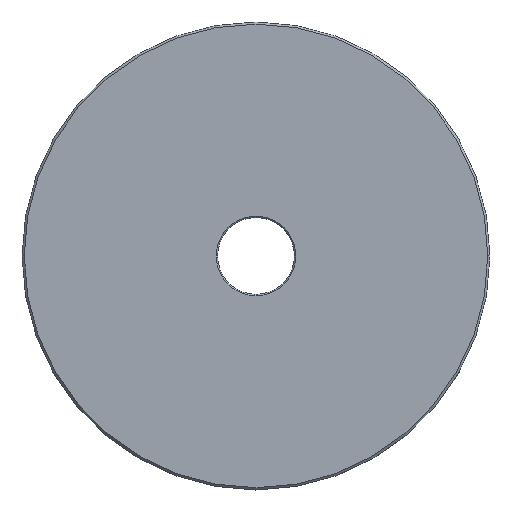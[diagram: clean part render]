
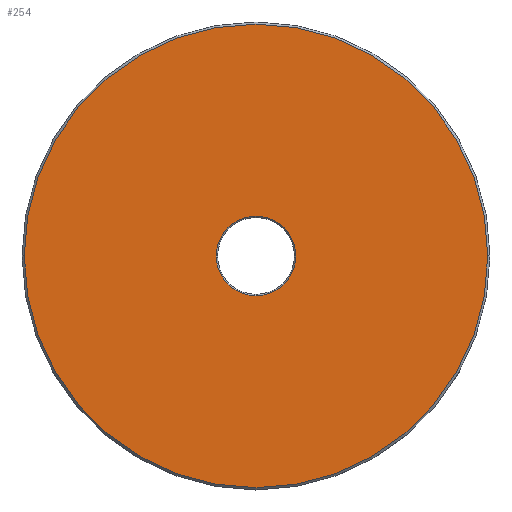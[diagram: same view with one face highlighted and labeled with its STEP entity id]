
A CAD part, top view. The second image highlights one B-rep face of the part: STEP entity #254.
In plain terms, the highlighted planar face has unit normal (0, 0, 1).
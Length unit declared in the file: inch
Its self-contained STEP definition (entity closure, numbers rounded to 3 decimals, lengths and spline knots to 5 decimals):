
#52=CARTESIAN_POINT('',(0.,0.,0.));
#53=DIRECTION('',(0.,0.,-1.));
#54=DIRECTION('',(1.,0.,0.));
#55=AXIS2_PLACEMENT_3D('',#52,#53,#54);
#57=CARTESIAN_POINT('',(0.,0.,0.));
#58=DIRECTION('',(0.,0.,-1.));
#59=DIRECTION('',(-1.,0.,0.));
#60=AXIS2_PLACEMENT_3D('',#57,#58,#59);
#62=CARTESIAN_POINT('',(0.,0.,0.));
#63=DIRECTION('',(0.,0.,1.));
#64=DIRECTION('',(1.,0.,0.));
#65=AXIS2_PLACEMENT_3D('',#62,#63,#64);
#67=CARTESIAN_POINT('',(0.,0.,0.));
#68=DIRECTION('',(0.,0.,1.));
#69=DIRECTION('',(-1.,0.,0.));
#70=AXIS2_PLACEMENT_3D('',#67,#68,#69);
#138=CARTESIAN_POINT('',(0.56999,0.,0.));
#139=CARTESIAN_POINT('',(-0.56999,0.,0.));
#140=VERTEX_POINT('',#138);
#141=VERTEX_POINT('',#139);
#146=CARTESIAN_POINT('',(3.319,0.,0.));
#147=CARTESIAN_POINT('',(-3.319,0.,0.));
#148=VERTEX_POINT('',#146);
#149=VERTEX_POINT('',#147);
#238=CARTESIAN_POINT('',(0.,0.,0.));
#239=DIRECTION('',(0.,0.,-1.));
#240=DIRECTION('',(-1.,0.,0.));
#241=AXIS2_PLACEMENT_3D('',#238,#239,#240);
#242=PLANE('',#241);
#244=ORIENTED_EDGE('',*,*,#243,.F.);
#246=ORIENTED_EDGE('',*,*,#245,.F.);
#247=EDGE_LOOP('',(#244,#246));
#248=FACE_OUTER_BOUND('',#247,.F.);
#250=ORIENTED_EDGE('',*,*,#249,.F.);
#251=ORIENTED_EDGE('',*,*,#228,.F.);
#252=EDGE_LOOP('',(#250,#251));
#253=FACE_BOUND('',#252,.F.);
#254=ADVANCED_FACE('',(#248,#253),#242,.F.);
#56=CIRCLE('',#55,0.56999);
#61=CIRCLE('',#60,0.56999);
#66=CIRCLE('',#65,3.319);
#71=CIRCLE('',#70,3.319);
#228=EDGE_CURVE('',#141,#140,#61,.T.);
#243=EDGE_CURVE('',#148,#149,#66,.T.);
#245=EDGE_CURVE('',#149,#148,#71,.T.);
#249=EDGE_CURVE('',#140,#141,#56,.T.);
